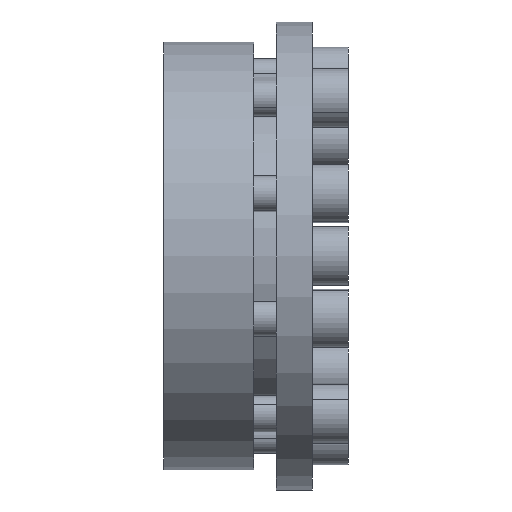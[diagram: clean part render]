
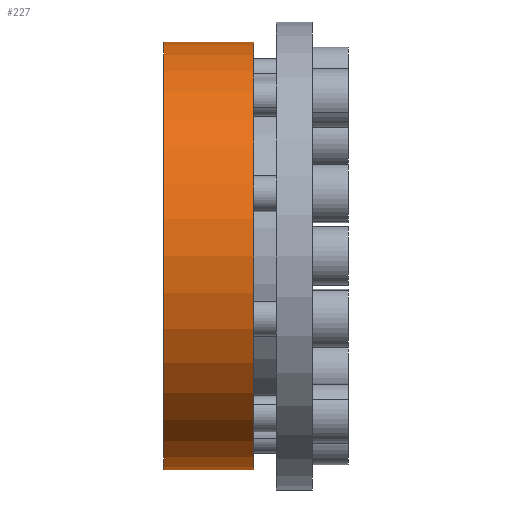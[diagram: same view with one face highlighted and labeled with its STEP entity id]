
A CAD part, front view. The second image highlights one B-rep face of the part: STEP entity #227.
In plain terms, the highlighted cylindrical face has radius 47.5 mm (diameter 95 mm), a partial arc.
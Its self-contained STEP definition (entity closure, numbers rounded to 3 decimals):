
#10 = VERTEX_POINT ( 'NONE', #1832 ) ;
#12 = EDGE_CURVE ( 'NONE', #10, #13, #1831, .T. ) ;
#13 = VERTEX_POINT ( 'NONE', #1892 ) ;
#16 = VERTEX_POINT ( 'NONE', #1886 ) ;
#18 = EDGE_CURVE ( 'NONE', #41, #16, #1885, .T. ) ;
#41 = VERTEX_POINT ( 'NONE', #1896 ) ;
#127 = EDGE_CURVE ( 'NONE', #10, #41, #2071, .T. ) ;
#224 = EDGE_CURVE ( 'NONE', #13, #16, #2255, .T. ) ;
#227 = ADVANCED_FACE ( 'NONE', ( #2250 ), #2249, .T. ) ;
#228 = EDGE_LOOP ( 'NONE', ( #229, #230, #231, #232 ) ) ;
#229 = ORIENTED_EDGE ( 'NONE', *, *, #12, .F. ) ;
#230 = ORIENTED_EDGE ( 'NONE', *, *, #127, .T. ) ;
#231 = ORIENTED_EDGE ( 'NONE', *, *, #18, .T. ) ;
#232 = ORIENTED_EDGE ( 'NONE', *, *, #224, .F. ) ;
#1829 = VECTOR ( 'NONE', #1893, 1000. ) ;
#1830 = CARTESIAN_POINT ( 'NONE',  ( 0., 0., 47.5 ) ) ;
#1831 = LINE ( 'NONE', #1830, #1829 ) ;
#1832 = CARTESIAN_POINT ( 'NONE',  ( -33., 0., 47.5 ) ) ;
#1882 = DIRECTION ( 'NONE',  ( 1., 0., 0. ) ) ;
#1883 = VECTOR ( 'NONE', #1882, 1000. ) ;
#1884 = CARTESIAN_POINT ( 'NONE',  ( 0., 0., -47.5 ) ) ;
#1885 = LINE ( 'NONE', #1884, #1883 ) ;
#1886 = CARTESIAN_POINT ( 'NONE',  ( -13., 0., -47.5 ) ) ;
#1892 = CARTESIAN_POINT ( 'NONE',  ( -13., 0., 47.5 ) ) ;
#1893 = DIRECTION ( 'NONE',  ( 1., 0., 0. ) ) ;
#1896 = CARTESIAN_POINT ( 'NONE',  ( -33., 0., -47.5 ) ) ;
#2067 = DIRECTION ( 'NONE',  ( 0., 0., -1. ) ) ;
#2068 = DIRECTION ( 'NONE',  ( 1., 0., 0. ) ) ;
#2069 = CARTESIAN_POINT ( 'NONE',  ( -33., 0., 0. ) ) ;
#2070 = AXIS2_PLACEMENT_3D ( 'NONE', #2069, #2068, #2067 ) ;
#2071 = CIRCLE ( 'NONE', #2070, 47.5 ) ;
#2244 = DIRECTION ( 'NONE',  ( 0., 0., -1. ) ) ;
#2245 = DIRECTION ( 'NONE',  ( 1., 0., 0. ) ) ;
#2246 = CARTESIAN_POINT ( 'NONE',  ( 0., 0., 0. ) ) ;
#2247 = AXIS2_PLACEMENT_3D ( 'NONE', #2246, #2245, #2244 ) ;
#2249 = CYLINDRICAL_SURFACE ( 'NONE', #2247, 47.5 ) ;
#2250 = FACE_OUTER_BOUND ( 'NONE', #228, .T. ) ;
#2251 = DIRECTION ( 'NONE',  ( 0., 0., -1. ) ) ;
#2252 = DIRECTION ( 'NONE',  ( 1., 0., 0. ) ) ;
#2253 = CARTESIAN_POINT ( 'NONE',  ( -13., 0., 0. ) ) ;
#2254 = AXIS2_PLACEMENT_3D ( 'NONE', #2253, #2252, #2251 ) ;
#2255 = CIRCLE ( 'NONE', #2254, 47.5 ) ;
